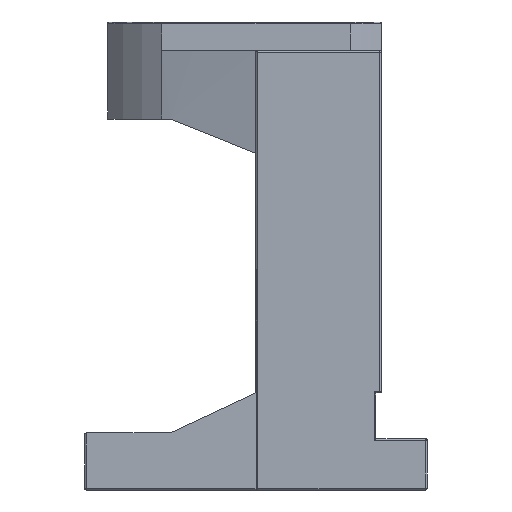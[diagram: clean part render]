
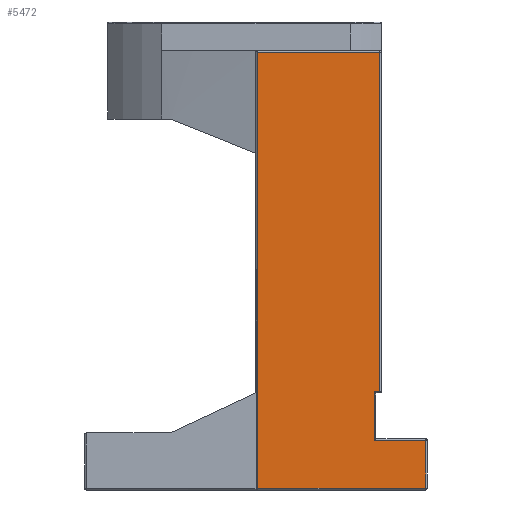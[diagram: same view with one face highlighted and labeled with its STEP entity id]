
A CAD part, left-side view. The second image highlights one B-rep face of the part: STEP entity #5472.
In plain terms, the highlighted planar face has unit normal (-1, 0, 0).
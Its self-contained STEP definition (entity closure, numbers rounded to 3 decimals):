
#54 = DIRECTION ( 'NONE',  ( 0., 1., 0. ) ) ;
#91 = EDGE_CURVE ( 'NONE', #2351, #868, #313, .T. ) ;
#113 = LINE ( 'NONE', #645, #2155 ) ;
#168 = VECTOR ( 'NONE', #5641, 1000. ) ;
#251 = ORIENTED_EDGE ( 'NONE', *, *, #801, .T. ) ;
#288 = EDGE_CURVE ( 'NONE', #868, #1649, #3741, .T. ) ;
#313 = LINE ( 'NONE', #1038, #168 ) ;
#381 = VECTOR ( 'NONE', #2436, 1000. ) ;
#424 = CARTESIAN_POINT ( 'NONE',  ( -35., -0.3, -4.7 ) ) ;
#435 = VECTOR ( 'NONE', #54, 1000. ) ;
#439 = CARTESIAN_POINT ( 'NONE',  ( -35., -29.7, 3.7 ) ) ;
#637 = LINE ( 'NONE', #4532, #5205 ) ;
#645 = CARTESIAN_POINT ( 'NONE',  ( -35., -20.7, 12. ) ) ;
#701 = CARTESIAN_POINT ( 'NONE',  ( -35., -30., 72. ) ) ;
#719 = VECTOR ( 'NONE', #840, 1000. ) ;
#793 = CARTESIAN_POINT ( 'NONE',  ( -35., -21., 3.7 ) ) ;
#801 = EDGE_CURVE ( 'NONE', #3461, #3976, #1257, .T. ) ;
#840 = DIRECTION ( 'NONE',  ( 0., -1., 0. ) ) ;
#868 = VERTEX_POINT ( 'NONE', #4021 ) ;
#904 = EDGE_CURVE ( 'NONE', #5669, #3461, #979, .T. ) ;
#971 = EDGE_CURVE ( 'NONE', #3976, #1620, #4077, .T. ) ;
#979 = LINE ( 'NONE', #4003, #719 ) ;
#1038 = CARTESIAN_POINT ( 'NONE',  ( -35., -21.7, 72. ) ) ;
#1133 = EDGE_CURVE ( 'NONE', #1649, #5669, #637, .T. ) ;
#1158 = DIRECTION ( 'NONE',  ( -1., 0., 0. ) ) ;
#1247 = DIRECTION ( 'NONE',  ( 0., 0., 1. ) ) ;
#1257 = LINE ( 'NONE', #2171, #2277 ) ;
#1270 = CARTESIAN_POINT ( 'NONE',  ( -35., -22., 12.3 ) ) ;
#1620 = VERTEX_POINT ( 'NONE', #5344 ) ;
#1649 = VERTEX_POINT ( 'NONE', #2420 ) ;
#1718 = DIRECTION ( 'NONE',  ( 0., -1., 0. ) ) ;
#1787 = AXIS2_PLACEMENT_3D ( 'NONE', #701, #1158, #4243 ) ;
#1817 = ORIENTED_EDGE ( 'NONE', *, *, #91, .T. ) ;
#1898 = DIRECTION ( 'NONE',  ( 0., 0., -1. ) ) ;
#1964 = DIRECTION ( 'NONE',  ( 0., 0., 1. ) ) ;
#2116 = CARTESIAN_POINT ( 'NONE',  ( -35., -30., 71.7 ) ) ;
#2155 = VECTOR ( 'NONE', #1964, 1000. ) ;
#2171 = CARTESIAN_POINT ( 'NONE',  ( -35., -29.7, 4. ) ) ;
#2277 = VECTOR ( 'NONE', #1247, 1000. ) ;
#2351 = VERTEX_POINT ( 'NONE', #4428 ) ;
#2420 = CARTESIAN_POINT ( 'NONE',  ( -35., -0.3, 71.7 ) ) ;
#2436 = DIRECTION ( 'NONE',  ( 0., 1., 0. ) ) ;
#2450 = PLANE ( 'NONE',  #1787 ) ;
#2994 = VECTOR ( 'NONE', #1718, 1000. ) ;
#3054 = ORIENTED_EDGE ( 'NONE', *, *, #5645, .T. ) ;
#3185 = ORIENTED_EDGE ( 'NONE', *, *, #4259, .T. ) ;
#3221 = EDGE_LOOP ( 'NONE', ( #1817, #3905, #3602, #3335, #251, #3331, #3185, #3054 ) ) ;
#3267 = LINE ( 'NONE', #1270, #2994 ) ;
#3331 = ORIENTED_EDGE ( 'NONE', *, *, #971, .T. ) ;
#3335 = ORIENTED_EDGE ( 'NONE', *, *, #904, .T. ) ;
#3461 = VERTEX_POINT ( 'NONE', #5445 ) ;
#3602 = ORIENTED_EDGE ( 'NONE', *, *, #1133, .T. ) ;
#3614 = VERTEX_POINT ( 'NONE', #5565 ) ;
#3741 = LINE ( 'NONE', #2116, #381 ) ;
#3905 = ORIENTED_EDGE ( 'NONE', *, *, #288, .T. ) ;
#3962 = FACE_OUTER_BOUND ( 'NONE', #3221, .T. ) ;
#3976 = VERTEX_POINT ( 'NONE', #439 ) ;
#4003 = CARTESIAN_POINT ( 'NONE',  ( -35., -30., -4.7 ) ) ;
#4021 = CARTESIAN_POINT ( 'NONE',  ( -35., -21.7, 71.7 ) ) ;
#4077 = LINE ( 'NONE', #793, #435 ) ;
#4243 = DIRECTION ( 'NONE',  ( 0., 1., 0. ) ) ;
#4259 = EDGE_CURVE ( 'NONE', #1620, #3614, #113, .T. ) ;
#4428 = CARTESIAN_POINT ( 'NONE',  ( -35., -21.7, 12.3 ) ) ;
#4532 = CARTESIAN_POINT ( 'NONE',  ( -35., -0.3, -5. ) ) ;
#5205 = VECTOR ( 'NONE', #1898, 1000. ) ;
#5344 = CARTESIAN_POINT ( 'NONE',  ( -35., -20.7, 3.7 ) ) ;
#5445 = CARTESIAN_POINT ( 'NONE',  ( -35., -29.7, -4.7 ) ) ;
#5472 = ADVANCED_FACE ( 'NONE', ( #3962 ), #2450, .T. ) ;
#5565 = CARTESIAN_POINT ( 'NONE',  ( -35., -20.7, 12.3 ) ) ;
#5641 = DIRECTION ( 'NONE',  ( 0., 0., 1. ) ) ;
#5645 = EDGE_CURVE ( 'NONE', #3614, #2351, #3267, .T. ) ;
#5669 = VERTEX_POINT ( 'NONE', #424 ) ;
